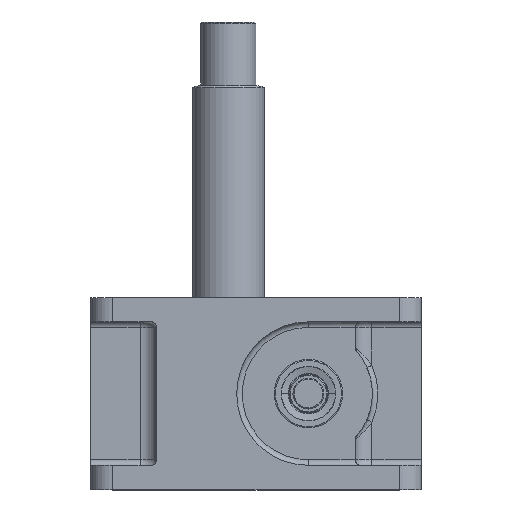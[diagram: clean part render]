
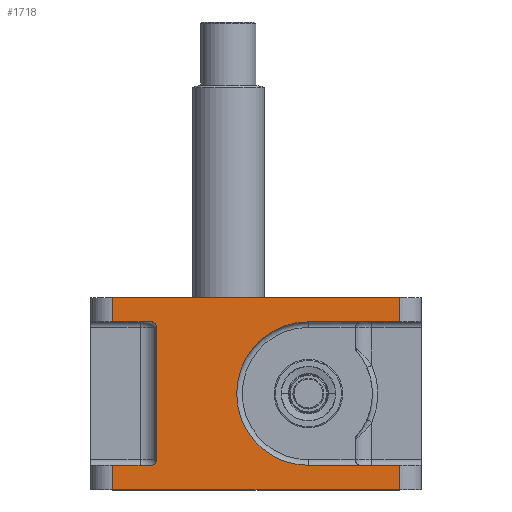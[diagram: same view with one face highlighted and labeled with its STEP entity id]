
A CAD part, top view. The second image highlights one B-rep face of the part: STEP entity #1718.
In plain terms, the highlighted planar face has unit normal (0, 0, 1).
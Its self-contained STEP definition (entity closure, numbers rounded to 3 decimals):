
#1690 = VERTEX_POINT ( 'NONE', #5103 ) ;
#1691 = EDGE_CURVE ( 'NONE', #1703, #1692, #5102, .T. ) ;
#1692 = VERTEX_POINT ( 'NONE', #5097 ) ;
#1693 = ORIENTED_EDGE ( 'NONE', *, *, #1776, .T. ) ;
#1694 = EDGE_CURVE ( 'NONE', #1704, #1715, #5096, .T. ) ;
#1695 = ORIENTED_EDGE ( 'NONE', *, *, #1696, .F. ) ;
#1696 = EDGE_CURVE ( 'NONE', #1697, #1704, #5154, .T. ) ;
#1697 = VERTEX_POINT ( 'NONE', #5150 ) ;
#1698 = ORIENTED_EDGE ( 'NONE', *, *, #1699, .T. ) ;
#1699 = EDGE_CURVE ( 'NONE', #1697, #1700, #5149, .T. ) ;
#1700 = VERTEX_POINT ( 'NONE', #5145 ) ;
#1701 = ORIENTED_EDGE ( 'NONE', *, *, #1702, .T. ) ;
#1702 = EDGE_CURVE ( 'NONE', #1700, #1703, #5144, .T. ) ;
#1703 = VERTEX_POINT ( 'NONE', #5140 ) ;
#1704 = VERTEX_POINT ( 'NONE', #5139 ) ;
#1705 = ORIENTED_EDGE ( 'NONE', *, *, #1694, .F. ) ;
#1708 = ORIENTED_EDGE ( 'NONE', *, *, #1709, .T. ) ;
#1709 = EDGE_CURVE ( 'NONE', #1713, #1715, #5130, .T. ) ;
#1711 = ORIENTED_EDGE ( 'NONE', *, *, #1712, .F. ) ;
#1712 = EDGE_CURVE ( 'NONE', #1713, #1714, #5189, .T. ) ;
#1713 = VERTEX_POINT ( 'NONE', #5184 ) ;
#1714 = VERTEX_POINT ( 'NONE', #5183 ) ;
#1715 = VERTEX_POINT ( 'NONE', #5182 ) ;
#1718 = ADVANCED_FACE ( 'NONE', ( #5177 ), #5176, .F. ) ;
#1719 = EDGE_LOOP ( 'NONE', ( #1711, #1708, #1705, #1695, #1698, #1701, #1772, #1773, #1693, #1761, #1766, #1762, #1769, #2067 ) ) ;
#1760 = EDGE_CURVE ( 'NONE', #1770, #1764, #5279, .T. ) ;
#1761 = ORIENTED_EDGE ( 'NONE', *, *, #1771, .F. ) ;
#1762 = ORIENTED_EDGE ( 'NONE', *, *, #1763, .T. ) ;
#1763 = EDGE_CURVE ( 'NONE', #1768, #1764, #5275, .T. ) ;
#1764 = VERTEX_POINT ( 'NONE', #5271 ) ;
#1765 = VERTEX_POINT ( 'NONE', #5270 ) ;
#1766 = ORIENTED_EDGE ( 'NONE', *, *, #1767, .T. ) ;
#1767 = EDGE_CURVE ( 'NONE', #1765, #1768, #5269, .T. ) ;
#1768 = VERTEX_POINT ( 'NONE', #5265 ) ;
#1769 = ORIENTED_EDGE ( 'NONE', *, *, #1760, .F. ) ;
#1770 = VERTEX_POINT ( 'NONE', #5264 ) ;
#1771 = EDGE_CURVE ( 'NONE', #1765, #1690, #5263, .T. ) ;
#1772 = ORIENTED_EDGE ( 'NONE', *, *, #1691, .T. ) ;
#1773 = ORIENTED_EDGE ( 'NONE', *, *, #1774, .F. ) ;
#1774 = EDGE_CURVE ( 'NONE', #1775, #1692, #5258, .T. ) ;
#1775 = VERTEX_POINT ( 'NONE', #5319 ) ;
#1776 = EDGE_CURVE ( 'NONE', #1775, #1690, #5318, .T. ) ;
#2067 = ORIENTED_EDGE ( 'NONE', *, *, #2068, .F. ) ;
#2068 = EDGE_CURVE ( 'NONE', #1714, #1770, #5867, .T. ) ;
#4245 = DIRECTION ( 'NONE',  ( 0., 1., 0. ) ) ;
#4251 = VECTOR ( 'NONE', #4245, 1000. ) ;
#5096 = LINE ( 'NONE', #5157, #5156 ) ;
#5097 = CARTESIAN_POINT ( 'NONE',  ( 2.596, 147., 48.48 ) ) ;
#5098 = DIRECTION ( 'NONE',  ( -1., 0., 0. ) ) ;
#5099 = DIRECTION ( 'NONE',  ( 0., 0., -1. ) ) ;
#5100 = CARTESIAN_POINT ( 'NONE',  ( -2.404, 147., 48.48 ) ) ;
#5101 = AXIS2_PLACEMENT_3D ( 'NONE', #5100, #5099, #5098 ) ;
#5102 = CIRCLE ( 'NONE', #5101, 5. ) ;
#5103 = CARTESIAN_POINT ( 'NONE',  ( -2.404, 22., 48.48 ) ) ;
#5127 = DIRECTION ( 'NONE',  ( 1., 0., 0. ) ) ;
#5128 = VECTOR ( 'NONE', #5127, 1000. ) ;
#5129 = CARTESIAN_POINT ( 'NONE',  ( 182.596, 152., 48.48 ) ) ;
#5130 = LINE ( 'NONE', #5129, #5128 ) ;
#5139 = CARTESIAN_POINT ( 'NONE',  ( 222.596, 174., 48.48 ) ) ;
#5140 = CARTESIAN_POINT ( 'NONE',  ( -2.404, 152., 48.48 ) ) ;
#5141 = DIRECTION ( 'NONE',  ( 1., 0., 0. ) ) ;
#5142 = VECTOR ( 'NONE', #5141, 1000. ) ;
#5143 = CARTESIAN_POINT ( 'NONE',  ( 2.596, 152., 48.48 ) ) ;
#5144 = LINE ( 'NONE', #5143, #5142 ) ;
#5145 = CARTESIAN_POINT ( 'NONE',  ( -37.404, 152., 48.48 ) ) ;
#5146 = DIRECTION ( 'NONE',  ( 0., -1., 0. ) ) ;
#5147 = VECTOR ( 'NONE', #5146, 1000. ) ;
#5148 = CARTESIAN_POINT ( 'NONE',  ( -37.404, 174., 48.48 ) ) ;
#5149 = LINE ( 'NONE', #5148, #5147 ) ;
#5150 = CARTESIAN_POINT ( 'NONE',  ( -37.404, 174., 48.48 ) ) ;
#5151 = DIRECTION ( 'NONE',  ( 1., 0., 0. ) ) ;
#5152 = VECTOR ( 'NONE', #5151, 1000. ) ;
#5153 = CARTESIAN_POINT ( 'NONE',  ( 222.596, 174., 48.48 ) ) ;
#5154 = LINE ( 'NONE', #5153, #5152 ) ;
#5155 = DIRECTION ( 'NONE',  ( 0., -1., 0. ) ) ;
#5156 = VECTOR ( 'NONE', #5155, 1000. ) ;
#5157 = CARTESIAN_POINT ( 'NONE',  ( 222.596, 174., 48.48 ) ) ;
#5171 = DIRECTION ( 'NONE',  ( -1., 0., 0. ) ) ;
#5172 = DIRECTION ( 'NONE',  ( 0., 0., -1. ) ) ;
#5173 = AXIS2_PLACEMENT_3D ( 'NONE', #5175, #5172, #5171 ) ;
#5175 = CARTESIAN_POINT ( 'NONE',  ( 222.596, 174., 48.48 ) ) ;
#5176 = PLANE ( 'NONE',  #5173 ) ;
#5177 = FACE_OUTER_BOUND ( 'NONE', #1719, .T. ) ;
#5182 = CARTESIAN_POINT ( 'NONE',  ( 222.596, 152., 48.48 ) ) ;
#5183 = CARTESIAN_POINT ( 'NONE',  ( 140.096, 22., 48.48 ) ) ;
#5184 = CARTESIAN_POINT ( 'NONE',  ( 140.096, 152., 48.48 ) ) ;
#5185 = DIRECTION ( 'NONE',  ( 1., 0., 0. ) ) ;
#5186 = DIRECTION ( 'NONE',  ( 0., 0., 1. ) ) ;
#5187 = CARTESIAN_POINT ( 'NONE',  ( 140.096, 87., 48.48 ) ) ;
#5188 = AXIS2_PLACEMENT_3D ( 'NONE', #5187, #5186, #5185 ) ;
#5189 = CIRCLE ( 'NONE', #5188, 65. ) ;
#5257 = CARTESIAN_POINT ( 'NONE',  ( 2.596, 22., 48.48 ) ) ;
#5258 = LINE ( 'NONE', #5257, #4251 ) ;
#5260 = DIRECTION ( 'NONE',  ( 1., 0., 0. ) ) ;
#5261 = VECTOR ( 'NONE', #5260, 1000. ) ;
#5262 = CARTESIAN_POINT ( 'NONE',  ( 2.596, 22., 48.48 ) ) ;
#5263 = LINE ( 'NONE', #5262, #5261 ) ;
#5264 = CARTESIAN_POINT ( 'NONE',  ( 222.596, 22., 48.48 ) ) ;
#5265 = CARTESIAN_POINT ( 'NONE',  ( -37.404, 0., 48.48 ) ) ;
#5266 = DIRECTION ( 'NONE',  ( 0., -1., 0. ) ) ;
#5267 = VECTOR ( 'NONE', #5266, 1000. ) ;
#5268 = CARTESIAN_POINT ( 'NONE',  ( -37.404, 174., 48.48 ) ) ;
#5269 = LINE ( 'NONE', #5268, #5267 ) ;
#5270 = CARTESIAN_POINT ( 'NONE',  ( -37.404, 22., 48.48 ) ) ;
#5271 = CARTESIAN_POINT ( 'NONE',  ( 222.596, 0., 48.48 ) ) ;
#5272 = DIRECTION ( 'NONE',  ( 1., 0., 0. ) ) ;
#5273 = VECTOR ( 'NONE', #5272, 1000. ) ;
#5274 = CARTESIAN_POINT ( 'NONE',  ( 222.596, 0., 48.48 ) ) ;
#5275 = LINE ( 'NONE', #5274, #5273 ) ;
#5276 = DIRECTION ( 'NONE',  ( 0., -1., 0. ) ) ;
#5277 = VECTOR ( 'NONE', #5276, 1000. ) ;
#5278 = CARTESIAN_POINT ( 'NONE',  ( 222.596, 174., 48.48 ) ) ;
#5279 = LINE ( 'NONE', #5278, #5277 ) ;
#5314 = DIRECTION ( 'NONE',  ( -1., 0., 0. ) ) ;
#5315 = DIRECTION ( 'NONE',  ( 0., 0., -1. ) ) ;
#5316 = CARTESIAN_POINT ( 'NONE',  ( -2.404, 27., 48.48 ) ) ;
#5317 = AXIS2_PLACEMENT_3D ( 'NONE', #5316, #5315, #5314 ) ;
#5318 = CIRCLE ( 'NONE', #5317, 5. ) ;
#5319 = CARTESIAN_POINT ( 'NONE',  ( 2.596, 27., 48.48 ) ) ;
#5864 = DIRECTION ( 'NONE',  ( 1., 0., 0. ) ) ;
#5865 = VECTOR ( 'NONE', #5864, 1000. ) ;
#5866 = CARTESIAN_POINT ( 'NONE',  ( 182.596, 22., 48.48 ) ) ;
#5867 = LINE ( 'NONE', #5866, #5865 ) ;
